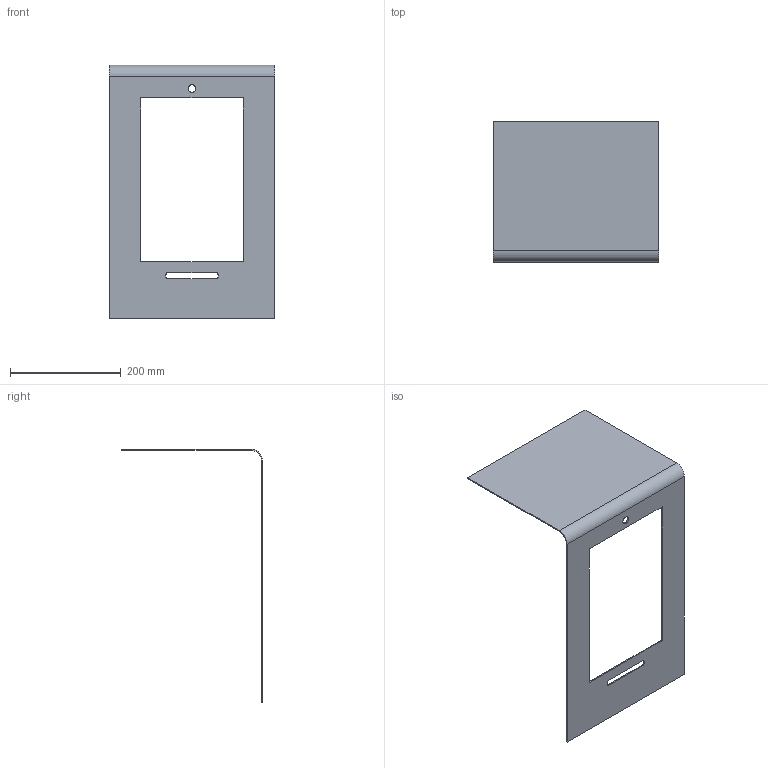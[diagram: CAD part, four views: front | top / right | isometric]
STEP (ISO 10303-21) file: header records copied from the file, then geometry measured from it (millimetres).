
FILE_DESCRIPTION(('Open CASCADE Model'),'2;1');
FILE_NAME('Open CASCADE Shape Model','2026-09-23T02:05:59',('Author'),( 'Open CASCADE'),'Open CASCADE STEP processor 7.7','Open CASCADE 7.7' ,'Unknown');
FILE_SCHEMA(('AUTOMOTIVE_DESIGN { 1 0 10303 214 1 1 1 1 }'));
Length unit declared in the file: millimetre
Products named in the file (1): Open CASCADE STEP translator 7.7 1
Bounding box: 300 x 254 x 458 mm (x, y, z)
Volume: 308634.7 mm3; surface area: 315067.7 mm2
Topology: 1 solids, 1 shells, 23 faces, 63 edges, 42 vertices
Faces by surface type: plane 16, cylinder 7
Full cylindrical faces by diameter (mm): 14 x1
Entity records: 1560 total; most frequent: CARTESIAN_POINT 330, DIRECTION 211, LINE 128, VECTOR 128, ORIENTED_EDGE 126, PCURVE 126, DEFINITIONAL_REPRESENTATION 126, EDGE_CURVE 63
